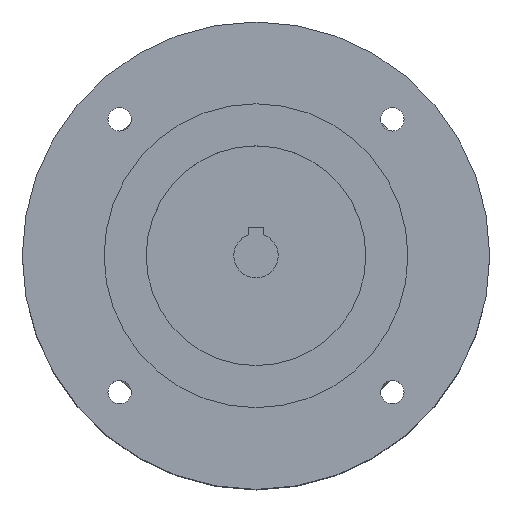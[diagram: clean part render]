
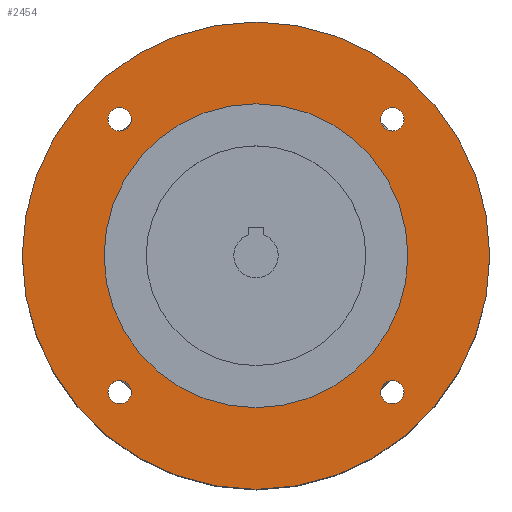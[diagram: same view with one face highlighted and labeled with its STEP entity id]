
A CAD part, top view. The second image highlights one B-rep face of the part: STEP entity #2454.
In plain terms, the highlighted planar face has unit normal (0, 0, 1).
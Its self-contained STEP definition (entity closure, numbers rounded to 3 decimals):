
#16 = DIRECTION ( 'NONE',  ( 1., 0., 0. ) ) ;
#75 = CIRCLE ( 'NONE', #282, 100. ) ;
#106 = DIRECTION ( 'NONE',  ( 0., 0., -1. ) ) ;
#127 = CARTESIAN_POINT ( 'NONE',  ( -63.336, -58.336, 0. ) ) ;
#138 = VERTEX_POINT ( 'NONE', #257 ) ;
#204 = CARTESIAN_POINT ( 'NONE',  ( -58.336, -58.336, 0. ) ) ;
#206 = EDGE_LOOP ( 'NONE', ( #1151, #859 ) ) ;
#224 = CARTESIAN_POINT ( 'NONE',  ( 65., 0., 0. ) ) ;
#245 = CIRCLE ( 'NONE', #791, 5. ) ;
#257 = CARTESIAN_POINT ( 'NONE',  ( -100., 0., 0. ) ) ;
#282 = AXIS2_PLACEMENT_3D ( 'NONE', #1708, #400, #1809 ) ;
#289 = DIRECTION ( 'NONE',  ( 0., 0., -1. ) ) ;
#295 = VERTEX_POINT ( 'NONE', #1243 ) ;
#352 = CARTESIAN_POINT ( 'NONE',  ( 100., 0., 0. ) ) ;
#356 = AXIS2_PLACEMENT_3D ( 'NONE', #204, #1600, #1921 ) ;
#363 = PLANE ( 'NONE',  #656 ) ;
#398 = VERTEX_POINT ( 'NONE', #1555 ) ;
#400 = DIRECTION ( 'NONE',  ( 0., 0., -1. ) ) ;
#410 = CARTESIAN_POINT ( 'NONE',  ( 63.336, -58.336, 0. ) ) ;
#423 = CARTESIAN_POINT ( 'NONE',  ( 58.336, 58.336, 0. ) ) ;
#459 = VERTEX_POINT ( 'NONE', #1092 ) ;
#497 = DIRECTION ( 'NONE',  ( -1., 0., 0. ) ) ;
#498 = CIRCLE ( 'NONE', #707, 100. ) ;
#517 = VERTEX_POINT ( 'NONE', #641 ) ;
#525 = EDGE_LOOP ( 'NONE', ( #2142, #1777 ) ) ;
#532 = FACE_BOUND ( 'NONE', #206, .T. ) ;
#564 = CIRCLE ( 'NONE', #1093, 5. ) ;
#570 = EDGE_CURVE ( 'NONE', #1769, #295, #2226, .T. ) ;
#577 = AXIS2_PLACEMENT_3D ( 'NONE', #2338, #924, #2131 ) ;
#600 = CARTESIAN_POINT ( 'NONE',  ( 53.336, 58.336, 0. ) ) ;
#602 = CARTESIAN_POINT ( 'NONE',  ( 100., 0., 0. ) ) ;
#604 = EDGE_LOOP ( 'NONE', ( #1905, #1525 ) ) ;
#605 = CARTESIAN_POINT ( 'NONE',  ( -58.336, 58.336, 0. ) ) ;
#610 = DIRECTION ( 'NONE',  ( 1., 0., 0. ) ) ;
#641 = CARTESIAN_POINT ( 'NONE',  ( -65., 0., 0. ) ) ;
#656 = AXIS2_PLACEMENT_3D ( 'NONE', #352, #1298, #497 ) ;
#687 = DIRECTION ( 'NONE',  ( 0., 0., 1. ) ) ;
#688 = CIRCLE ( 'NONE', #1131, 5. ) ;
#690 = DIRECTION ( 'NONE',  ( -1., 0., 0. ) ) ;
#707 = AXIS2_PLACEMENT_3D ( 'NONE', #2603, #2115, #1937 ) ;
#749 = CARTESIAN_POINT ( 'NONE',  ( 0., 0., 0. ) ) ;
#766 = DIRECTION ( 'NONE',  ( 1., 0., 0. ) ) ;
#771 = EDGE_CURVE ( 'NONE', #295, #1769, #1986, .T. ) ;
#791 = AXIS2_PLACEMENT_3D ( 'NONE', #423, #2188, #766 ) ;
#792 = EDGE_CURVE ( 'NONE', #398, #2399, #245, .T. ) ;
#821 = AXIS2_PLACEMENT_3D ( 'NONE', #948, #687, #1427 ) ;
#859 = ORIENTED_EDGE ( 'NONE', *, *, #1252, .F. ) ;
#876 = EDGE_CURVE ( 'NONE', #920, #1139, #2597, .T. ) ;
#920 = VERTEX_POINT ( 'NONE', #410 ) ;
#924 = DIRECTION ( 'NONE',  ( 0., 0., 1. ) ) ;
#926 = AXIS2_PLACEMENT_3D ( 'NONE', #605, #1812, #1830 ) ;
#948 = CARTESIAN_POINT ( 'NONE',  ( -58.336, -58.336, 0. ) ) ;
#961 = VERTEX_POINT ( 'NONE', #602 ) ;
#984 = EDGE_LOOP ( 'NONE', ( #2313, #2272 ) ) ;
#1005 = DIRECTION ( 'NONE',  ( 1., 0., 0. ) ) ;
#1008 = DIRECTION ( 'NONE',  ( 0., 0., 1. ) ) ;
#1053 = FACE_OUTER_BOUND ( 'NONE', #2491, .T. ) ;
#1074 = AXIS2_PLACEMENT_3D ( 'NONE', #2417, #106, #690 ) ;
#1092 = CARTESIAN_POINT ( 'NONE',  ( -53.336, -58.336, 0. ) ) ;
#1093 = AXIS2_PLACEMENT_3D ( 'NONE', #1602, #1008, #610 ) ;
#1114 = ORIENTED_EDGE ( 'NONE', *, *, #2091, .F. ) ;
#1126 = FACE_BOUND ( 'NONE', #1489, .T. ) ;
#1131 = AXIS2_PLACEMENT_3D ( 'NONE', #2277, #1478, #1005 ) ;
#1139 = VERTEX_POINT ( 'NONE', #2482 ) ;
#1151 = ORIENTED_EDGE ( 'NONE', *, *, #2174, .F. ) ;
#1216 = EDGE_CURVE ( 'NONE', #517, #2351, #2564, .T. ) ;
#1242 = FACE_BOUND ( 'NONE', #604, .T. ) ;
#1243 = CARTESIAN_POINT ( 'NONE',  ( -63.336, 58.336, 0. ) ) ;
#1252 = EDGE_CURVE ( 'NONE', #1339, #459, #2391, .T. ) ;
#1298 = DIRECTION ( 'NONE',  ( 0., 0., -1. ) ) ;
#1339 = VERTEX_POINT ( 'NONE', #127 ) ;
#1427 = DIRECTION ( 'NONE',  ( 1., 0., 0. ) ) ;
#1431 = DIRECTION ( 'NONE',  ( 0., 0., 1. ) ) ;
#1447 = EDGE_CURVE ( 'NONE', #2351, #517, #2064, .T. ) ;
#1478 = DIRECTION ( 'NONE',  ( 0., 0., 1. ) ) ;
#1489 = EDGE_LOOP ( 'NONE', ( #1841, #2513 ) ) ;
#1525 = ORIENTED_EDGE ( 'NONE', *, *, #1447, .T. ) ;
#1555 = CARTESIAN_POINT ( 'NONE',  ( 63.336, 58.336, 0. ) ) ;
#1578 = AXIS2_PLACEMENT_3D ( 'NONE', #749, #289, #2056 ) ;
#1600 = DIRECTION ( 'NONE',  ( 0., 0., 1. ) ) ;
#1602 = CARTESIAN_POINT ( 'NONE',  ( 58.336, 58.336, 0. ) ) ;
#1636 = CARTESIAN_POINT ( 'NONE',  ( 58.336, -58.336, 0. ) ) ;
#1638 = EDGE_CURVE ( 'NONE', #1139, #920, #688, .T. ) ;
#1708 = CARTESIAN_POINT ( 'NONE',  ( 0., 0., 0. ) ) ;
#1769 = VERTEX_POINT ( 'NONE', #2223 ) ;
#1777 = ORIENTED_EDGE ( 'NONE', *, *, #1638, .F. ) ;
#1805 = ORIENTED_EDGE ( 'NONE', *, *, #2186, .F. ) ;
#1809 = DIRECTION ( 'NONE',  ( -1., 0., 0. ) ) ;
#1812 = DIRECTION ( 'NONE',  ( 0., 0., 1. ) ) ;
#1830 = DIRECTION ( 'NONE',  ( 1., 0., 0. ) ) ;
#1841 = ORIENTED_EDGE ( 'NONE', *, *, #570, .F. ) ;
#1905 = ORIENTED_EDGE ( 'NONE', *, *, #1216, .T. ) ;
#1921 = DIRECTION ( 'NONE',  ( 1., 0., 0. ) ) ;
#1937 = DIRECTION ( 'NONE',  ( -1., 0., 0. ) ) ;
#1986 = CIRCLE ( 'NONE', #926, 5. ) ;
#2056 = DIRECTION ( 'NONE',  ( -1., 0., 0. ) ) ;
#2064 = CIRCLE ( 'NONE', #1074, 65. ) ;
#2091 = EDGE_CURVE ( 'NONE', #138, #961, #75, .T. ) ;
#2115 = DIRECTION ( 'NONE',  ( 0., 0., -1. ) ) ;
#2128 = FACE_BOUND ( 'NONE', #984, .T. ) ;
#2131 = DIRECTION ( 'NONE',  ( 1., 0., 0. ) ) ;
#2142 = ORIENTED_EDGE ( 'NONE', *, *, #876, .F. ) ;
#2164 = EDGE_CURVE ( 'NONE', #2399, #398, #564, .T. ) ;
#2174 = EDGE_CURVE ( 'NONE', #459, #1339, #2559, .T. ) ;
#2185 = AXIS2_PLACEMENT_3D ( 'NONE', #1636, #1431, #16 ) ;
#2186 = EDGE_CURVE ( 'NONE', #961, #138, #498, .T. ) ;
#2188 = DIRECTION ( 'NONE',  ( 0., 0., 1. ) ) ;
#2223 = CARTESIAN_POINT ( 'NONE',  ( -53.336, 58.336, 0. ) ) ;
#2226 = CIRCLE ( 'NONE', #577, 5. ) ;
#2272 = ORIENTED_EDGE ( 'NONE', *, *, #2164, .F. ) ;
#2277 = CARTESIAN_POINT ( 'NONE',  ( 58.336, -58.336, 0. ) ) ;
#2313 = ORIENTED_EDGE ( 'NONE', *, *, #792, .F. ) ;
#2338 = CARTESIAN_POINT ( 'NONE',  ( -58.336, 58.336, 0. ) ) ;
#2351 = VERTEX_POINT ( 'NONE', #224 ) ;
#2391 = CIRCLE ( 'NONE', #356, 5. ) ;
#2399 = VERTEX_POINT ( 'NONE', #600 ) ;
#2417 = CARTESIAN_POINT ( 'NONE',  ( 0., 0., 0. ) ) ;
#2454 = ADVANCED_FACE ( 'NONE', ( #2128, #2590, #1126, #532, #1053, #1242 ), #363, .F. ) ;
#2482 = CARTESIAN_POINT ( 'NONE',  ( 53.336, -58.336, 0. ) ) ;
#2491 = EDGE_LOOP ( 'NONE', ( #1114, #1805 ) ) ;
#2513 = ORIENTED_EDGE ( 'NONE', *, *, #771, .F. ) ;
#2559 = CIRCLE ( 'NONE', #821, 5. ) ;
#2564 = CIRCLE ( 'NONE', #1578, 65. ) ;
#2590 = FACE_BOUND ( 'NONE', #525, .T. ) ;
#2597 = CIRCLE ( 'NONE', #2185, 5. ) ;
#2603 = CARTESIAN_POINT ( 'NONE',  ( 0., 0., 0. ) ) ;
